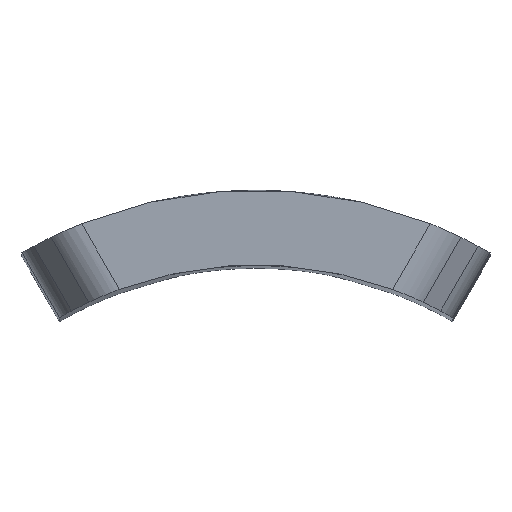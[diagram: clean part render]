
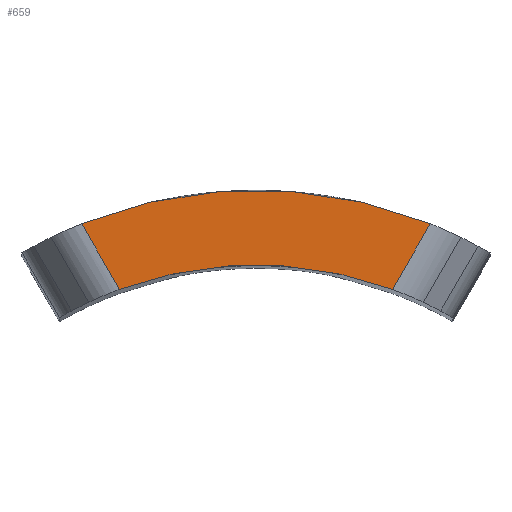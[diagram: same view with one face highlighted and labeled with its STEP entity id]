
A CAD part, top view. The second image highlights one B-rep face of the part: STEP entity #659.
In plain terms, the highlighted planar face has unit normal (0, 0, 1).
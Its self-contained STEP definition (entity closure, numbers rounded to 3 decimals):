
#27=PLANE('',#731);
#35=CIRCLE('',#693,42.);
#39=CIRCLE('',#713,50.);
#79=FACE_OUTER_BOUND('',#115,.T.);
#115=EDGE_LOOP('',(#587,#588,#589,#590));
#165=LINE('',#1290,#213);
#166=LINE('',#1292,#214);
#213=VECTOR('',#873,10.);
#214=VECTOR('',#876,10.);
#266=VERTEX_POINT('',#954);
#267=VERTEX_POINT('',#961);
#304=VERTEX_POINT('',#1169);
#305=VERTEX_POINT('',#1176);
#335=EDGE_CURVE('',#267,#266,#35,.T.);
#382=EDGE_CURVE('',#305,#304,#39,.T.);
#412=EDGE_CURVE('',#305,#266,#165,.T.);
#413=EDGE_CURVE('',#267,#304,#166,.T.);
#587=ORIENTED_EDGE('',*,*,#412,.F.);
#588=ORIENTED_EDGE('',*,*,#382,.T.);
#589=ORIENTED_EDGE('',*,*,#413,.F.);
#590=ORIENTED_EDGE('',*,*,#335,.T.);
#659=ADVANCED_FACE('',(#79),#27,.T.);
#693=AXIS2_PLACEMENT_3D('',#962,#759,#760);
#713=AXIS2_PLACEMENT_3D('',#1177,#818,#819);
#731=AXIS2_PLACEMENT_3D('',#1291,#874,#875);
#759=DIRECTION('center_axis',(0.,0.,-1.));
#760=DIRECTION('ref_axis',(0.5,0.866,0.));
#818=DIRECTION('center_axis',(0.,0.,1.));
#819=DIRECTION('ref_axis',(-0.5,-0.866,0.));
#873=DIRECTION('',(-0.5,-0.866,0.));
#874=DIRECTION('center_axis',(0.,0.,1.));
#875=DIRECTION('ref_axis',(1.,0.,0.));
#876=DIRECTION('',(-0.5,0.866,0.));
#954=CARTESIAN_POINT('',(14.577,39.389,254.));
#961=CARTESIAN_POINT('',(-14.577,39.389,254.));
#962=CARTESIAN_POINT('Origin',(0.,0.,
254.));
#1169=CARTESIAN_POINT('',(-18.625,46.402,254.));
#1176=CARTESIAN_POINT('',(18.625,46.402,254.));
#1177=CARTESIAN_POINT('Origin',(0.,0.,254.));
#1290=CARTESIAN_POINT('',(13.239,37.074,254.));
#1291=CARTESIAN_POINT('Origin',(0.,43.457,
254.));
#1292=CARTESIAN_POINT('',(-14.239,38.806,254.));
